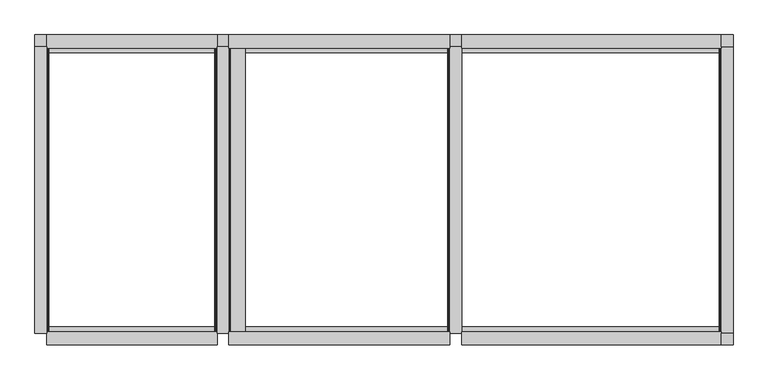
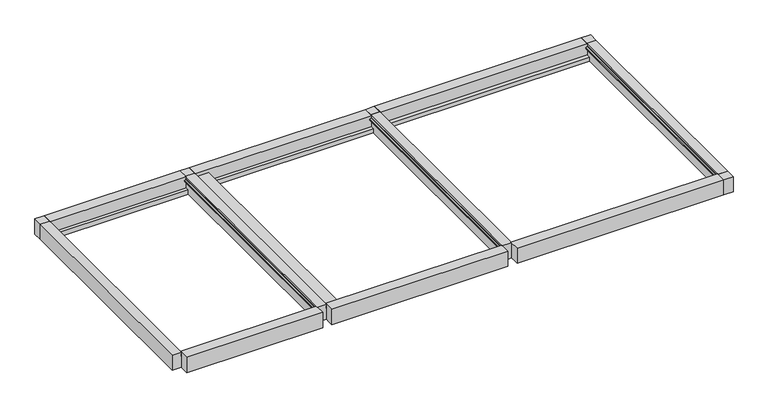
"""IFC4 building model written with IfcOpenShell, lengths in millimetres: proxy geometry, Renson_Camargue_Skye_Facade-Mounted_Patio covers : Renson_Camargue_Skye_Facade-Mounted_Patio covers."""

import ifcopenshell
import ifcopenshell.guid

model = None  # the IFC model being written
_history = None  # IfcOwnerHistory: only IFC2X3 demands one
_inside = {}  # id of a spatial element -> (the spatial element, [elements in it])
_under = {}  # id of a project, library or spatial element -> (it, [spatial elements below it])
_declared = {}  # id of a project -> (the project, [libraries it declares])
_typed = {}  # id of a type object -> (the type object, [elements of that type])
_made_of = {}  # id of a material, layer set ... -> (it, [elements and type objects made of it])


def new_model(schema):
    """Start an empty IFC model of exactly this schema.

    Asked for "IFC4X3", IfcOpenShell would pick the latest addendum, in which some entities
    have other attributes; the version numbers below select the first issue.
    IFC2X3 requires an IfcOwnerHistory on every rooted entity: one is made here for all.
    """
    global model, _history
    if schema == "IFC4X3":
        model = ifcopenshell.file(schema_version=(4, 3, 0, 0))
    else:
        model = ifcopenshell.file(schema=schema)
    _inside.clear()
    _under.clear()
    _declared.clear()
    _typed.clear()
    _made_of.clear()
    _history = None
    if model.schema == "IFC2X3":
        org = make("IfcOrganization", Name="unknown")
        user = make(
            "IfcPersonAndOrganization",
            ThePerson=make("IfcPerson", FamilyName="unknown"),
            TheOrganization=org,
        )
        app = make(
            "IfcApplication",
            ApplicationDeveloper=org,
            Version="unknown",
            ApplicationFullName="unknown",
            ApplicationIdentifier="unknown",
        )
        _history = make(
            "IfcOwnerHistory",
            OwningUser=user,
            OwningApplication=app,
            ChangeAction="ADDED",
            CreationDate=0,
        )
    return model


def make(cls, **values):
    """One entity of the class cls with the attributes given. An attribute that is None is left unset."""
    return model.create_entity(
        cls, **{name: value for name, value in values.items() if value is not None}
    )


def rooted(cls, **values):
    """An entity with a GlobalId (a new one), such as an element, a storey or a relation."""
    return make(cls, GlobalId=ifcopenshell.guid.new(), OwnerHistory=_history, **values)


def si_unit(unit_type, name, prefix=None):
    """IfcSIUnit, for example si_unit("LENGTHUNIT", "METRE", prefix="MILLI")."""
    return make("IfcSIUnit", UnitType=unit_type, Prefix=prefix, Name=name)


def assignment(units):
    """IfcUnitAssignment: the units of a project."""
    return None if units is None else make("IfcUnitAssignment", Units=units)


def point(xyz):
    """IfcCartesianPoint."""
    return None if xyz is None else make("IfcCartesianPoint", Coordinates=xyz)


def direction(xyz):
    """IfcDirection."""
    return None if xyz is None else make("IfcDirection", DirectionRatios=xyz)


def frame(location, z_axis=None, x_axis=None):
    """IfcAxis2Placement3D, a coordinate frame: its origin and axes. An axis left out is left unset."""
    return make(
        "IfcAxis2Placement3D",
        Location=point(location),
        Axis=direction(z_axis),
        RefDirection=direction(x_axis),
    )


def origin():
    """The frame at (0, 0, 0) with its axes left unset."""
    return frame((0.0, 0.0, 0.0))


def place(relative_to, where):
    """IfcLocalPlacement: puts the frame where relative to a parent placement (None: the world)."""
    return make(
        "IfcLocalPlacement", PlacementRelTo=relative_to, RelativePlacement=where
    )


def context(
    kind, dimensions, precision=None, world=None, true_north=None, identifier=None
):
    """IfcGeometricRepresentationContext, for example the 3D "Model" context."""
    return make(
        "IfcGeometricRepresentationContext",
        ContextIdentifier=identifier,
        ContextType=kind,
        CoordinateSpaceDimension=dimensions,
        Precision=precision,
        WorldCoordinateSystem=world,
        TrueNorth=true_north,
    )


def project(units=None, contexts=None):
    """IfcProject with its units and contexts."""
    return rooted(
        "IfcProject",
        Name="project",
        RepresentationContexts=contexts,
        UnitsInContext=assignment(units),
    )


def spatial(cls, under=None, at=None, **own):
    """A site, building, storey or space (cls), placed at a placement, below another one or the project."""
    s = rooted(cls, ObjectPlacement=at, **own)
    if under is not None:
        _under.setdefault(under.id(), (under, []))[1].append(s)
    return s


def polyline(points):
    """IfcPolyline through the points."""
    return make("IfcPolyline", Points=[point(p) for p in points])


def outline(outer, holes=None, kind="AREA"):
    """IfcArbitraryClosedProfileDef: a profile drawn as a closed curve; with holes, ...WithVoids."""
    if holes is None:
        return make("IfcArbitraryClosedProfileDef", ProfileType=kind, OuterCurve=outer)
    return make(
        "IfcArbitraryProfileDefWithVoids",
        ProfileType=kind,
        OuterCurve=outer,
        InnerCurves=holes,
    )


def extrude(swept, where, along, depth):
    """IfcExtrudedAreaSolid: the profile swept, set in the frame where, extruded along a direction by depth."""
    return make(
        "IfcExtrudedAreaSolid",
        SweptArea=swept,
        Position=where,
        ExtrudedDirection=direction(along),
        Depth=depth,
    )


def shape(context_of_items, identifier, shape_type, items):
    """IfcShapeRepresentation: the items that make up one representation, for example the "Body"."""
    return make(
        "IfcShapeRepresentation",
        ContextOfItems=context_of_items,
        RepresentationIdentifier=identifier,
        RepresentationType=shape_type,
        Items=items,
    )


def source(mapping_origin, context_of_items, identifier, shape_type, items):
    """IfcRepresentationMap: a shape defined once, which mapped items show again and again."""
    return make(
        "IfcRepresentationMap",
        MappingOrigin=mapping_origin,
        MappedRepresentation=shape(context_of_items, identifier, shape_type, items),
    )


def transform(
    local_origin,
    x_axis=None,
    y_axis=None,
    z_axis=None,
    scale=None,
    scale2=None,
    scale3=None,
    uniform=True,
):
    """IfcCartesianTransformationOperator3D, or its non-uniform kind. x_axis, y_axis, z_axis: its Axis1, 2, 3."""
    if uniform:
        return make(
            "IfcCartesianTransformationOperator3D",
            Axis1=direction(x_axis),
            Axis2=direction(y_axis),
            LocalOrigin=point(local_origin),
            Scale=scale,
            Axis3=direction(z_axis),
        )
    return make(
        "IfcCartesianTransformationOperator3DnonUniform",
        Axis1=direction(x_axis),
        Axis2=direction(y_axis),
        LocalOrigin=point(local_origin),
        Scale=scale,
        Axis3=direction(z_axis),
        Scale2=scale2,
        Scale3=scale3,
    )


def mapped(mapping_source, mapping_target):
    """IfcMappedItem: shows the shape of a source again, moved by a transform."""
    return make(
        "IfcMappedItem", MappingSource=mapping_source, MappingTarget=mapping_target
    )


def made_of(thing, what):
    """Note that an element or type object is made of a material, layer set ...; save() writes the relation."""
    if what is not None:
        _made_of.setdefault(what.id(), (what, []))[1].append(thing)
    return thing


def element(
    cls,
    number,
    at=None,
    inside=None,
    cuts=None,
    type_object=None,
    material=None,
    context=None,
    identifier="Body",
    shape_type=None,
    held_by="IfcProductDefinitionShape",
    body=None,
    shapes=None,
    **own,
):
    """One element of the class cls, such as IfcWall. Its Tag is "e" and its number.

    at: its placement. inside: the storey or other place that contains it. cuts: it is an
    opening in that element (IfcRelVoidsElement). A single representation is given by context,
    identifier, shape_type and body (its items); several are given by shapes. held_by: the class
    of the entity that holds the representations. save() writes the other relations.
    """
    e = rooted(cls, Tag="e%d" % number, ObjectPlacement=at, **own)
    if body is not None:
        shapes = [shape(context, identifier, shape_type, body)]
    if shapes is not None:
        e.Representation = make(held_by, Representations=shapes)
    if inside is not None:
        _inside.setdefault(inside.id(), (inside, []))[1].append(e)
    if cuts is not None:
        rooted(
            "IfcRelVoidsElement", RelatingBuildingElement=cuts, RelatedOpeningElement=e
        )
    if type_object is not None:
        _typed.setdefault(type_object.id(), (type_object, []))[1].append(e)
    return made_of(e, material)


def aggregate(whole, parts):
    """IfcRelAggregates: a whole, such as a stair, and the parts it consists of."""
    return rooted("IfcRelAggregates", RelatingObject=whole, RelatedObjects=parts)


def save(model, path):
    """Write the relations noted so far, then the file.

    IfcRelAggregates (storeys below a building ...), IfcRelContainedInSpatialStructure (elements
    in a storey), IfcRelDefinesByType, IfcRelAssociatesMaterial and IfcRelDeclares: one each for
    every whole, place, type object, material and project.
    """
    for whole, parts in _under.values():
        aggregate(whole, parts)
    for where, things in _inside.values():
        rooted(
            "IfcRelContainedInSpatialStructure",
            RelatedElements=things,
            RelatingStructure=where,
        )
    for kind, things in _typed.values():
        rooted("IfcRelDefinesByType", RelatedObjects=things, RelatingType=kind)
    for what, things in _made_of.values():
        rooted("IfcRelAssociatesMaterial", RelatedObjects=things, RelatingMaterial=what)
    for by, libraries in _declared.values():
        rooted("IfcRelDeclares", RelatingContext=by, RelatedDefinitions=libraries)
    model.write(path)


def generic_models_b816ea3c(model_context):
    return source(origin(), model_context, "Body", "SweptSolid", [
        extrude(outline(polyline([(7750.0, -1850.0), (7750.0, -2000.0), (7600.0, -2000.0), (7600.0, -1850.0), (7750.0, -1850.0)])), frame((0.0, 0.0, 2250.0), z_axis=(0.0, 0.0, 1.0), x_axis=(1.0, 0.0, 0.0)), (0.0, 0.0, 1.0), 260.0),
        extrude(outline(polyline([(7750.0, 1850.0), (7600.0, 1850.0), (7600.0, 2000.0), (7750.0, 2000.0), (7750.0, 1850.0)])), frame((0.0, 0.0, 2250.0), z_axis=(0.0, 0.0, 1.0), x_axis=(1.0, 0.0, 0.0)), (0.0, 0.0, 1.0), 260.0),
        extrude(outline(polyline([(1830.0, 2510.0), (2000.0, 2510.0), (2000.0, 2250.0), (1770.0, 2250.0), (1770.0, 2322.0), (1830.0, 2322.0), (1830.0, 2510.0)])), frame((4250.0, 0.0, 0.0), z_axis=(1.0, 0.0, 0.0), x_axis=(0.0, 1.0, 0.0)), (0.0, 0.0, 1.0), 3350.0),
        extrude(outline(polyline([(-2000.0, 2250.0), (-2000.0, 2510.0), (-1830.0, 2510.0), (-1830.0, 2322.0), (-1770.0, 2322.0), (-1770.0, 2250.0), (-2000.0, 2250.0)])), frame((4250.0, 0.0, 0.0), z_axis=(1.0, 0.0, 0.0), x_axis=(0.0, 1.0, 0.0)), (0.0, 0.0, 1.0), 3350.0),
        extrude(outline(polyline([(2510.0, 7750.0), (2510.0, 7600.0), (2479.6823598, 7600.0), (2479.2449277, 7595.0), (2471.400763, 7595.0), (2455.6555802, 7579.2544156), (2455.6555802, 7569.9090324), (2441.6559373, 7573.6603211), (2441.6559373, 7600.0), (2250.0, 7600.0), (2250.0, 7750.0), (2510.0, 7750.0)])), frame((0.0, -1850.0, 0.0), z_axis=(0.0, 1.0, 0.0), x_axis=(0.0, 0.0, 1.0)), (0.0, 0.0, 1.0), 3700.0),
        extrude(outline(polyline([(2441.6559373, 1250.0), (2441.6559373, 1460.0), (2455.6555802, 1463.7512887), (2455.6555802, 1270.4059055), (2471.400763, 1255.0), (2479.2449277, 1255.0), (2479.6823598, 1250.0), (2441.6559373, 1250.0)])), frame((0.0, -1850.0, 0.0), z_axis=(0.0, 1.0, 0.0), x_axis=(0.0, 0.0, 1.0)), (0.0, 0.0, 1.0), 3700.0),
        extrude(outline(polyline([(1830.0, 2510.0), (2000.0, 2510.0), (2000.0, 2250.0), (1770.0, 2250.0), (1770.0, 2322.0), (1830.0, 2322.0), (1830.0, 2510.0)])), frame((1250.0, 0.0, 0.0), z_axis=(1.0, 0.0, 0.0), x_axis=(0.0, 1.0, 0.0)), (0.0, 0.0, 1.0), 2850.0),
        extrude(outline(polyline([(-2000.0, 2250.0), (-2000.0, 2510.0), (-1830.0, 2510.0), (-1830.0, 2322.0), (-1770.0, 2322.0), (-1770.0, 2250.0), (-2000.0, 2250.0)])), frame((1250.0, 0.0, 0.0), z_axis=(1.0, 0.0, 0.0), x_axis=(0.0, 1.0, 0.0)), (0.0, 0.0, 1.0), 2850.0),
        extrude(outline(polyline([(2510.0, 4250.0), (2510.0, 4100.0), (2479.6823598, 4100.0), (2479.2449277, 4095.0), (2471.400763, 4095.0), (2455.6555802, 4079.2544156), (2455.6555802, 4069.9090324), (2441.6559373, 4073.6603211), (2441.6559373, 4100.0), (2250.0, 4100.0), (2250.0, 4250.0), (2510.0, 4250.0)])), frame((0.0, -1850.0, 0.0), z_axis=(0.0, 1.0, 0.0), x_axis=(0.0, 0.0, 1.0)), (0.0, 0.0, 1.0), 3700.0),
        extrude(outline(polyline([(4250.0, 1850.0), (4100.0, 1850.0), (4100.0, 2000.0), (4250.0, 2000.0), (4250.0, 1850.0)])), frame((0.0, 0.0, 2250.0), z_axis=(0.0, 0.0, 1.0), x_axis=(1.0, 0.0, 0.0)), (0.0, 0.0, 1.0), 260.0),
        extrude(outline(polyline([(2441.6559373, -1100.0), (2441.6559373, -1074.0), (2455.6555802, -1070.2487113), (2455.6555802, -1079.5940945), (2471.400763, -1095.0), (2479.2449277, -1095.0), (2479.6823598, -1100.0), (2441.6559373, -1100.0)])), frame((0.0, -1850.0, 0.0), z_axis=(0.0, 1.0, 0.0), x_axis=(0.0, 0.0, 1.0)), (0.0, 0.0, 1.0), 3700.0),
        extrude(outline(polyline([(-1100.0, 1850.0), (-1100.0, -1850.0), (-1250.0, -1850.0), (-1250.0, 1850.0), (-1100.0, 1850.0)])), frame((0.0, 0.0, 2250.0), z_axis=(0.0, 0.0, 1.0), x_axis=(1.0, 0.0, 0.0)), (0.0, 0.0, 1.0), 260.0),
        extrude(outline(polyline([(2510.0, 1250.0), (2510.0, 1100.0), (2479.6904658, 1100.0), (2479.2449277, 1095.0), (2471.400763, 1095.0), (2455.6555802, 1079.2544156), (2455.6555802, 1069.9090324), (2441.6559373, 1073.6603211), (2441.6559373, 1100.0), (2250.0, 1100.0), (2250.0, 1250.0), (2510.0, 1250.0)])), frame((0.0, -1850.0, 0.0), z_axis=(0.0, 1.0, 0.0), x_axis=(0.0, 0.0, 1.0)), (0.0, 0.0, 1.0), 3700.0),
        extrude(outline(polyline([(1830.0, 2510.0), (2000.0, 2510.0), (2000.0, 2250.0), (1770.0, 2250.0), (1770.0, 2322.0), (1830.0, 2322.0), (1830.0, 2510.0)])), frame((-1100.0, 0.0, 0.0), z_axis=(1.0, 0.0, 0.0), x_axis=(0.0, 1.0, 0.0)), (0.0, 0.0, 1.0), 2200.0),
        extrude(outline(polyline([(-2000.0, 2250.0), (-2000.0, 2510.0), (-1830.0, 2510.0), (-1830.0, 2322.0), (-1770.0, 2322.0), (-1770.0, 2250.0), (-2000.0, 2250.0)])), frame((-1100.0, 0.0, 0.0), z_axis=(1.0, 0.0, 0.0), x_axis=(0.0, 1.0, 0.0)), (0.0, 0.0, 1.0), 2200.0),
        extrude(outline(polyline([(1250.0, 1850.0), (1100.0, 1850.0), (1100.0, 2000.0), (1250.0, 2000.0), (1250.0, 1850.0)])), frame((0.0, 0.0, 2250.0), z_axis=(0.0, 0.0, 1.0), x_axis=(1.0, 0.0, 0.0)), (0.0, 0.0, 1.0), 260.0),
        extrude(outline(polyline([(-1100.0, 1850.0), (-1250.0, 1850.0), (-1250.0, 2000.0), (-1100.0, 2000.0), (-1100.0, 1850.0)])), frame((0.0, 0.0, 2250.0), z_axis=(0.0, 0.0, 1.0), x_axis=(1.0, 0.0, 0.0)), (0.0, 0.0, 1.0), 260.0),
    ])


if __name__ == "__main__":
    model = new_model("IFC4")
    model_context = context("Model", 3, world=origin())
    ifc_project = project(units=[si_unit("LENGTHUNIT", "METRE", prefix="MILLI")], contexts=[model_context])
    site = spatial("IfcSite", under=ifc_project)
    building = spatial("IfcBuilding", under=site)
    placement = place(None, origin())
    generic_models_shape = generic_models_b816ea3c(model_context)
    element("IfcBuildingElementProxy", 1, Name="Renson_Camargue_Skye_Facade-Mounted_Patio covers : Renson_Camargue_Skye_Facade-Mounted_Patio covers", ObjectType="Renson_Camargue_Skye_Facade-Mounted_Patio covers : Renson_Camargue_Skye_Facade-Mounted_Patio covers", at=placement, inside=building, context=model_context, shape_type="MappedRepresentation", body=[
        mapped(generic_models_shape, transform((0.0, 0.0, 0.0), x_axis=(1.0, 0.0, 0.0), y_axis=(0.0, 1.0, 0.0), z_axis=(0.0, 0.0, 1.0))),
    ])
    save(model, "model.ifc")
